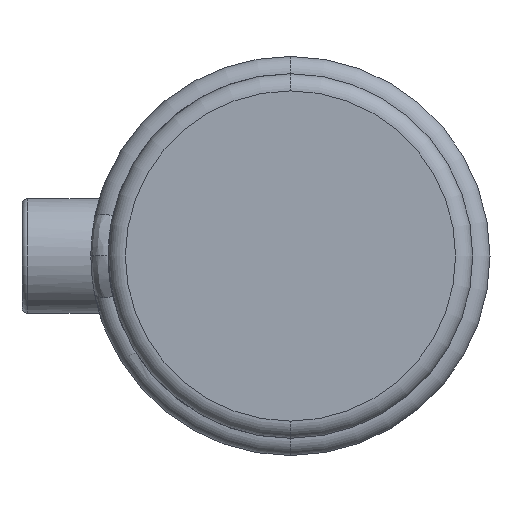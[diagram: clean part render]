
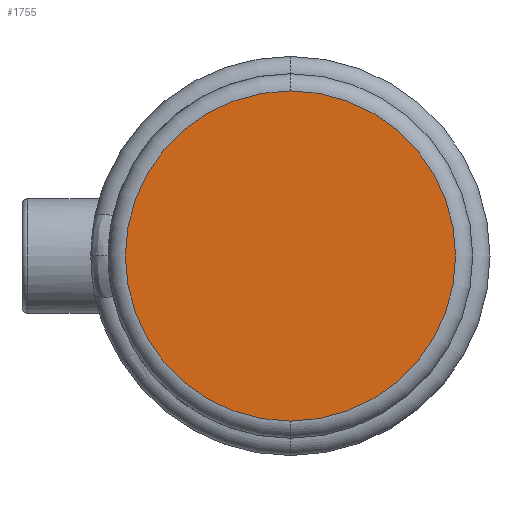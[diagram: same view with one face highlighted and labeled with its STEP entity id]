
A CAD part, left-side view. The second image highlights one B-rep face of the part: STEP entity #1755.
In plain terms, the highlighted planar face has unit normal (-1, 0, 0).
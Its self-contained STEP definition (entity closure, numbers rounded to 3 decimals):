
#120 = DIRECTION ( 'NONE',  ( 0., 0., 1. ) ) ;
#281 = CARTESIAN_POINT ( 'NONE',  ( 0., 0., 0. ) ) ;
#316 = CIRCLE ( 'NONE', #637, 28.75 ) ;
#637 = AXIS2_PLACEMENT_3D ( 'NONE', #1929, #4580, #2306 ) ;
#820 = EDGE_CURVE ( 'NONE', #3980, #2875, #1551, .T. ) ;
#902 = EDGE_CURVE ( 'NONE', #2875, #3980, #316, .T. ) ;
#1026 = DIRECTION ( 'NONE',  ( -1., 0., 0. ) ) ;
#1128 = CARTESIAN_POINT ( 'NONE',  ( 0., 0., 28.75 ) ) ;
#1320 = ORIENTED_EDGE ( 'NONE', *, *, #902, .T. ) ;
#1473 = CARTESIAN_POINT ( 'NONE',  ( 0., 0., -28.75 ) ) ;
#1551 = CIRCLE ( 'NONE', #4773, 28.75 ) ;
#1755 = ADVANCED_FACE ( 'NONE', ( #2057 ), #2138, .T. ) ;
#1929 = CARTESIAN_POINT ( 'NONE',  ( 0., 0., 0. ) ) ;
#2057 = FACE_OUTER_BOUND ( 'NONE', #2162, .T. ) ;
#2138 = PLANE ( 'NONE',  #3206 ) ;
#2162 = EDGE_LOOP ( 'NONE', ( #1320, #2707 ) ) ;
#2306 = DIRECTION ( 'NONE',  ( 0., 0., 1. ) ) ;
#2352 = DIRECTION ( 'NONE',  ( -1., 0., 0. ) ) ;
#2707 = ORIENTED_EDGE ( 'NONE', *, *, #820, .T. ) ;
#2875 = VERTEX_POINT ( 'NONE', #1128 ) ;
#3206 = AXIS2_PLACEMENT_3D ( 'NONE', #281, #1026, #3661 ) ;
#3661 = DIRECTION ( 'NONE',  ( 0., 0., 1. ) ) ;
#3980 = VERTEX_POINT ( 'NONE', #1473 ) ;
#4580 = DIRECTION ( 'NONE',  ( -1., 0., 0. ) ) ;
#4622 = CARTESIAN_POINT ( 'NONE',  ( 0., 0., 0. ) ) ;
#4773 = AXIS2_PLACEMENT_3D ( 'NONE', #4622, #2352, #120 ) ;
